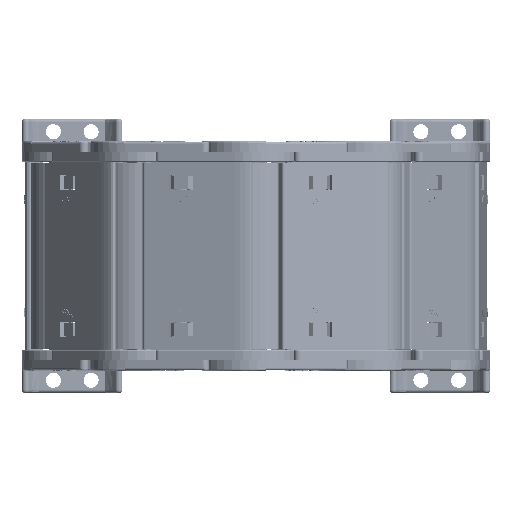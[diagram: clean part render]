
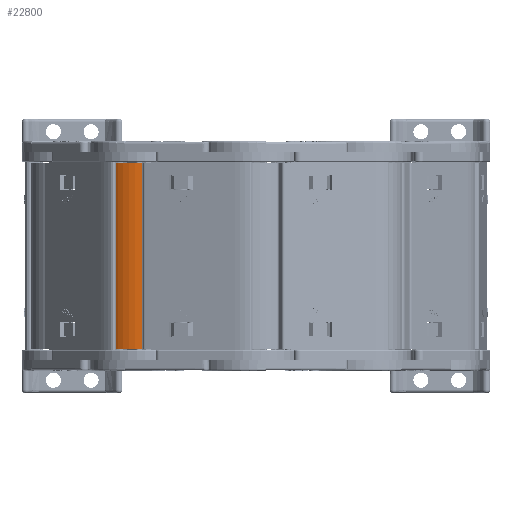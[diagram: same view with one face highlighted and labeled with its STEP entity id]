
A CAD part, left-side view. The second image highlights one B-rep face of the part: STEP entity #22800.
In plain terms, the highlighted cylindrical face has radius 17.3 mm (diameter 34.6 mm), a partial arc.
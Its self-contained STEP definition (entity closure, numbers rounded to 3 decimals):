
#530 = CARTESIAN_POINT ( 'NONE',  ( 17.932, 16.314, 28.5 ) ) ;
#2420 = EDGE_LOOP ( 'NONE', ( #41836, #44780, #48275, #15512 ) ) ;
#4316 = DIRECTION ( 'NONE',  ( 0., 0., 1. ) ) ;
#5694 = DIRECTION ( 'NONE',  ( 0., 0., -1. ) ) ;
#6173 = CARTESIAN_POINT ( 'NONE',  ( 32.559, 14.775, -9.05 ) ) ;
#6650 = VERTEX_POINT ( 'NONE', #6173 ) ;
#8628 = AXIS2_PLACEMENT_3D ( 'NONE', #46334, #46124, #22869 ) ;
#9486 = CARTESIAN_POINT ( 'NONE',  ( 32.559, 14.775, 28.5 ) ) ;
#12035 = LINE ( 'NONE', #530, #31347 ) ;
#12570 = CYLINDRICAL_SURFACE ( 'NONE', #8628, 17.3 ) ;
#13314 = EDGE_CURVE ( 'NONE', #6650, #16116, #33354, .T. ) ;
#14023 = DIRECTION ( 'NONE',  ( 0., 0., -1. ) ) ;
#14628 = EDGE_CURVE ( 'NONE', #30754, #6650, #46542, .T. ) ;
#15512 = ORIENTED_EDGE ( 'NONE', *, *, #13314, .T. ) ;
#16116 = VERTEX_POINT ( 'NONE', #44700 ) ;
#19389 = CARTESIAN_POINT ( 'NONE',  ( 32.559, 14.775, 65.05 ) ) ;
#20027 = AXIS2_PLACEMENT_3D ( 'NONE', #45637, #22368, #49421 ) ;
#22368 = DIRECTION ( 'NONE',  ( 0., 0., 1. ) ) ;
#22800 = ADVANCED_FACE ( 'NONE', ( #33142 ), #12570, .T. ) ;
#22869 = DIRECTION ( 'NONE',  ( -1., 0., 0. ) ) ;
#27089 = VECTOR ( 'NONE', #5694, 1000. ) ;
#30754 = VERTEX_POINT ( 'NONE', #19389 ) ;
#31347 = VECTOR ( 'NONE', #4316, 1000. ) ;
#33142 = FACE_OUTER_BOUND ( 'NONE', #2420, .T. ) ;
#33354 = CIRCLE ( 'NONE', #20027, 17.3 ) ;
#36097 = EDGE_CURVE ( 'NONE', #39194, #30754, #41469, .T. ) ;
#37205 = CARTESIAN_POINT ( 'NONE',  ( 23.607, -0.029, 65.05 ) ) ;
#39194 = VERTEX_POINT ( 'NONE', #41551 ) ;
#41101 = DIRECTION ( 'NONE',  ( -1., 0., 0. ) ) ;
#41469 = CIRCLE ( 'NONE', #46707, 17.3 ) ;
#41551 = CARTESIAN_POINT ( 'NONE',  ( 17.932, 16.314, 65.05 ) ) ;
#41836 = ORIENTED_EDGE ( 'NONE', *, *, #43369, .T. ) ;
#43369 = EDGE_CURVE ( 'NONE', #16116, #39194, #12035, .T. ) ;
#44700 = CARTESIAN_POINT ( 'NONE',  ( 17.932, 16.314, -9.05 ) ) ;
#44780 = ORIENTED_EDGE ( 'NONE', *, *, #36097, .T. ) ;
#45637 = CARTESIAN_POINT ( 'NONE',  ( 23.607, -0.029, -9.05 ) ) ;
#46124 = DIRECTION ( 'NONE',  ( 0., 0., -1. ) ) ;
#46334 = CARTESIAN_POINT ( 'NONE',  ( 23.607, -0.029, 28.5 ) ) ;
#46542 = LINE ( 'NONE', #9486, #27089 ) ;
#46707 = AXIS2_PLACEMENT_3D ( 'NONE', #37205, #14023, #41101 ) ;
#48275 = ORIENTED_EDGE ( 'NONE', *, *, #14628, .T. ) ;
#49421 = DIRECTION ( 'NONE',  ( 1., 0., 0. ) ) ;
